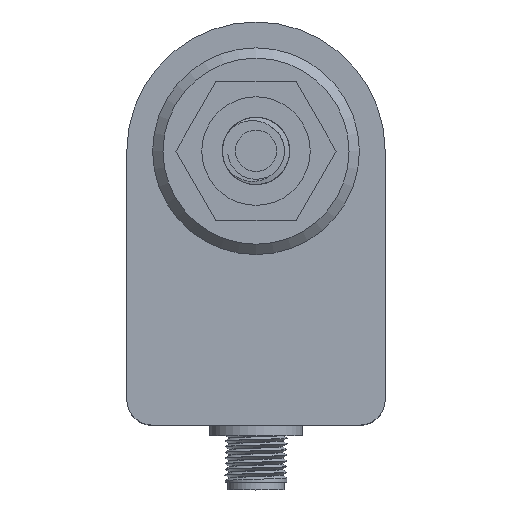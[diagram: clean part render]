
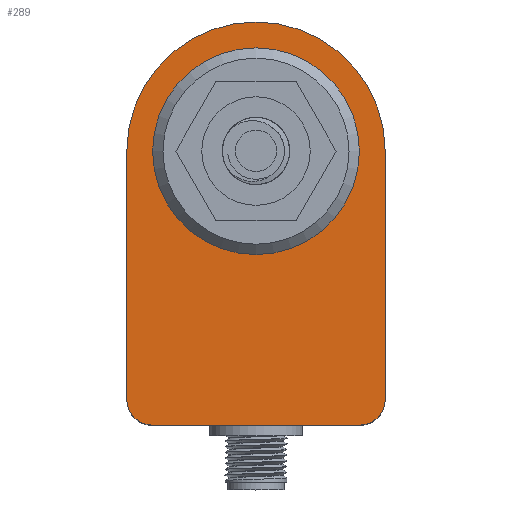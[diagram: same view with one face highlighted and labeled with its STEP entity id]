
A CAD part, top view. The second image highlights one B-rep face of the part: STEP entity #289.
In plain terms, the highlighted planar face has unit normal (0, 0, 1).
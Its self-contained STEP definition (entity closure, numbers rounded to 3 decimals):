
#289=ADVANCED_FACE('',(#877,#878),#444,.T.);
#444=PLANE('',#2693);
#550=LINE('',#3862,#672);
#554=LINE('',#3876,#676);
#557=LINE('',#3885,#679);
#672=VECTOR('',#2898,1.);
#676=VECTOR('',#2912,1.);
#679=VECTOR('',#2923,1.);
#814=CIRCLE('',#2680,25.);
#816=CIRCLE('',#2684,5.);
#819=CIRCLE('',#2689,5.);
#820=CIRCLE('',#2692,20.);
#877=FACE_BOUND('',#952,.T.);
#878=FACE_BOUND('',#953,.T.);
#952=EDGE_LOOP('',(#1249));
#953=EDGE_LOOP('',(#1250,#1251,#1252,#1253,#1254,#1255));
#1249=ORIENTED_EDGE('',*,*,#2217,.F.);
#1250=ORIENTED_EDGE('',*,*,#2201,.T.);
#1251=ORIENTED_EDGE('',*,*,#2204,.T.);
#1252=ORIENTED_EDGE('',*,*,#2207,.T.);
#1253=ORIENTED_EDGE('',*,*,#2211,.T.);
#1254=ORIENTED_EDGE('',*,*,#2214,.T.);
#1255=ORIENTED_EDGE('',*,*,#2216,.T.);
#1948=VERTEX_POINT('',#3850);
#1951=VERTEX_POINT('',#3855);
#1953=VERTEX_POINT('',#3861);
#1955=VERTEX_POINT('',#3867);
#1958=VERTEX_POINT('',#3875);
#1960=VERTEX_POINT('',#3881);
#1961=VERTEX_POINT('',#3888);
#2201=EDGE_CURVE('',#1948,#1951,#814,.T.);
#2204=EDGE_CURVE('',#1951,#1953,#550,.T.);
#2207=EDGE_CURVE('',#1953,#1955,#816,.T.);
#2211=EDGE_CURVE('',#1955,#1958,#554,.T.);
#2214=EDGE_CURVE('',#1958,#1960,#819,.T.);
#2216=EDGE_CURVE('',#1960,#1948,#557,.T.);
#2217=EDGE_CURVE('',#1961,#1961,#820,.T.);
#2680=AXIS2_PLACEMENT_3D('',#3856,#2892,#2893);
#2684=AXIS2_PLACEMENT_3D('',#3868,#2904,#2905);
#2689=AXIS2_PLACEMENT_3D('',#3882,#2918,#2919);
#2692=AXIS2_PLACEMENT_3D('',#3887,#2926,#2927);
#2693=AXIS2_PLACEMENT_3D('',#3889,#2928,#2929);
#2892=DIRECTION('',(0.,0.,1.));
#2893=DIRECTION('',(1.,0.,0.));
#2898=DIRECTION('',(0.,-1.,0.));
#2904=DIRECTION('',(0.,0.,1.));
#2905=DIRECTION('',(1.,0.,0.));
#2912=DIRECTION('',(1.,0.,0.));
#2918=DIRECTION('',(0.,0.,1.));
#2919=DIRECTION('',(1.,0.,0.));
#2923=DIRECTION('',(0.,1.,0.));
#2926=DIRECTION('',(0.,0.,1.));
#2927=DIRECTION('',(0.,1.,0.));
#2928=DIRECTION('',(0.,0.,1.));
#2929=DIRECTION('',(1.,0.,0.));
#3850=CARTESIAN_POINT('',(25.,53.,44.));
#3855=CARTESIAN_POINT('',(-25.,53.,44.));
#3856=CARTESIAN_POINT('',(0.,53.,44.));
#3861=CARTESIAN_POINT('',(-25.,5.,44.));
#3862=CARTESIAN_POINT('',(-25.,53.,44.));
#3867=CARTESIAN_POINT('',(-20.,0.,44.));
#3868=CARTESIAN_POINT('',(-20.,5.,44.));
#3875=CARTESIAN_POINT('',(20.,0.,44.));
#3876=CARTESIAN_POINT('',(-20.,0.,44.));
#3881=CARTESIAN_POINT('',(25.,5.,44.));
#3882=CARTESIAN_POINT('',(20.,5.,44.));
#3885=CARTESIAN_POINT('',(25.,5.,44.));
#3887=CARTESIAN_POINT('',(0.,53.,44.));
#3888=CARTESIAN_POINT('',(0.,73.,44.));
#3889=CARTESIAN_POINT('',(0.,53.,44.));
